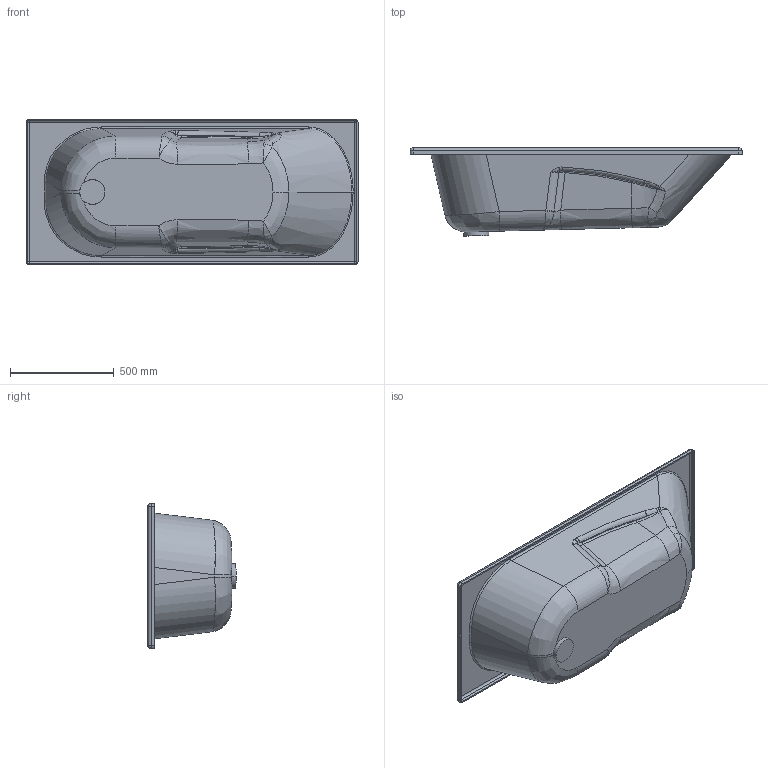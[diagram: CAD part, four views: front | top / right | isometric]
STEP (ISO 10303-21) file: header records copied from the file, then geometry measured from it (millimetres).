
FILE_DESCRIPTION (( 'STEP AP214' ), '1' );
FILE_NAME ('1600x700.STEP', '2023-06-30T12:24:01', ( '' ), ( '' ), 'SwSTEP 2.0', 'SolidWorks 2011', '' );
FILE_SCHEMA (( 'AUTOMOTIVE_DESIGN' ));
Length unit declared in the file: millimetre
Products named in the file (1): 1600x700
Bounding box: 1600 x 424.73 x 700 mm (x, y, z)
Volume: 13386463.4 mm3; surface area: 4202094.8 mm2
Topology: 1 solids, 1 shells, 188 faces, 443 edges, 236 vertices
Faces by surface type: bspline 127, cylinder 28, plane 25, sphere 8
Entity records: 59309 total; most frequent: CARTESIAN_POINT 56121, ORIENTED_EDGE 838, EDGE_CURVE 419, DIRECTION 305, B_SPLINE_CURVE_WITH_KNOTS 265, VERTEX_POINT 236, EDGE_LOOP 191, FACE_OUTER_BOUND 188
